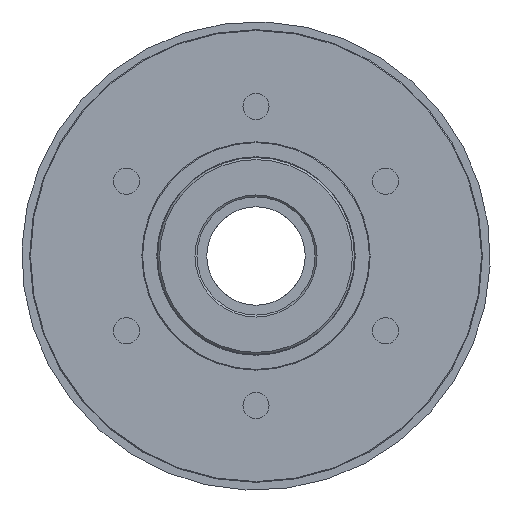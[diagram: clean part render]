
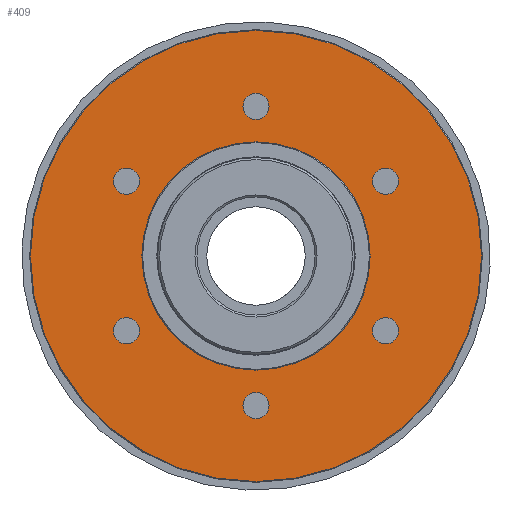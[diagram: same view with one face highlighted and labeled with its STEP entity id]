
A CAD part, left-side view. The second image highlights one B-rep face of the part: STEP entity #409.
In plain terms, the highlighted planar face has unit normal (-1, 0, 0).
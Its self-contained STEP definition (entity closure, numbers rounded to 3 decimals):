
#409 = ADVANCED_FACE( '', ( #833, #834, #835, #836, #837, #838, #839, #840 ), #841, .T. );
#833 = FACE_BOUND( '', #1439, .T. );
#834 = FACE_BOUND( '', #1440, .T. );
#835 = FACE_BOUND( '', #1441, .T. );
#836 = FACE_BOUND( '', #1442, .T. );
#837 = FACE_BOUND( '', #1443, .T. );
#838 = FACE_BOUND( '', #1444, .T. );
#839 = FACE_OUTER_BOUND( '', #1445, .T. );
#840 = FACE_BOUND( '', #1446, .T. );
#841 = PLANE( '', #1447 );
#1439 = EDGE_LOOP( '', ( #2002 ) );
#1440 = EDGE_LOOP( '', ( #2003 ) );
#1441 = EDGE_LOOP( '', ( #2004 ) );
#1442 = EDGE_LOOP( '', ( #2005 ) );
#1443 = EDGE_LOOP( '', ( #2006 ) );
#1444 = EDGE_LOOP( '', ( #2007 ) );
#1445 = EDGE_LOOP( '', ( #2008 ) );
#1446 = EDGE_LOOP( '', ( #2009 ) );
#1447 = AXIS2_PLACEMENT_3D( '', #2010, #2011, #2012 );
#2002 = ORIENTED_EDGE( '', *, *, #2958, .T. );
#2003 = ORIENTED_EDGE( '', *, *, #2959, .T. );
#2004 = ORIENTED_EDGE( '', *, *, #2960, .T. );
#2005 = ORIENTED_EDGE( '', *, *, #2961, .T. );
#2006 = ORIENTED_EDGE( '', *, *, #2962, .T. );
#2007 = ORIENTED_EDGE( '', *, *, #2963, .T. );
#2008 = ORIENTED_EDGE( '', *, *, #2946, .T. );
#2009 = ORIENTED_EDGE( '', *, *, #2964, .F. );
#2010 = CARTESIAN_POINT( '', ( 27.5, 0., 29. ) );
#2011 = DIRECTION( '', ( -1., 0., 0. ) );
#2012 = DIRECTION( '', ( 0., 0., 1. ) );
#2946 = EDGE_CURVE( '', #3298, #3298, #3299, .T. );
#2958 = EDGE_CURVE( '', #3320, #3320, #3321, .T. );
#2959 = EDGE_CURVE( '', #3322, #3322, #3323, .T. );
#2960 = EDGE_CURVE( '', #3324, #3324, #3325, .T. );
#2961 = EDGE_CURVE( '', #3326, #3326, #3327, .T. );
#2962 = EDGE_CURVE( '', #3328, #3328, #3329, .T. );
#2963 = EDGE_CURVE( '', #3330, #3330, #3331, .T. );
#2964 = EDGE_CURVE( '', #3332, #3332, #3333, .T. );
#3298 = VERTEX_POINT( '', #3993 );
#3299 = CIRCLE( '', #3994, 57.3 );
#3320 = VERTEX_POINT( '', #4015 );
#3321 = CIRCLE( '', #4016, 3.324 );
#3322 = VERTEX_POINT( '', #4017 );
#3323 = CIRCLE( '', #4018, 3.324 );
#3324 = VERTEX_POINT( '', #4019 );
#3325 = CIRCLE( '', #4020, 3.324 );
#3326 = VERTEX_POINT( '', #4021 );
#3327 = CIRCLE( '', #4022, 3.324 );
#3328 = VERTEX_POINT( '', #4023 );
#3329 = CIRCLE( '', #4024, 3.324 );
#3330 = VERTEX_POINT( '', #4025 );
#3331 = CIRCLE( '', #4026, 3.324 );
#3332 = VERTEX_POINT( '', #4027 );
#3333 = CIRCLE( '', #4028, 29. );
#3993 = CARTESIAN_POINT( '', ( 27.5, 0., 57.3 ) );
#3994 = AXIS2_PLACEMENT_3D( '', #4773, #4774, #4775 );
#4015 = CARTESIAN_POINT( '', ( 27.5, 35.787, 20.662 ) );
#4016 = AXIS2_PLACEMENT_3D( '', #4803, #4804, #4805 );
#4017 = CARTESIAN_POINT( '', ( 27.5, 35.787, -20.662 ) );
#4018 = AXIS2_PLACEMENT_3D( '', #4806, #4807, #4808 );
#4019 = CARTESIAN_POINT( '', ( 27.5, 0., -41.324 ) );
#4020 = AXIS2_PLACEMENT_3D( '', #4809, #4810, #4811 );
#4021 = CARTESIAN_POINT( '', ( 27.5, -35.787, -20.662 ) );
#4022 = AXIS2_PLACEMENT_3D( '', #4812, #4813, #4814 );
#4023 = CARTESIAN_POINT( '', ( 27.5, -35.787, 20.662 ) );
#4024 = AXIS2_PLACEMENT_3D( '', #4815, #4816, #4817 );
#4025 = CARTESIAN_POINT( '', ( 27.5, 0., 41.324 ) );
#4026 = AXIS2_PLACEMENT_3D( '', #4818, #4819, #4820 );
#4027 = CARTESIAN_POINT( '', ( 27.5, 0., 29. ) );
#4028 = AXIS2_PLACEMENT_3D( '', #4821, #4822, #4823 );
#4773 = CARTESIAN_POINT( '', ( 27.5, 0., 0. ) );
#4774 = DIRECTION( '', ( -1., 0., 0. ) );
#4775 = DIRECTION( '', ( 0., 0., 1. ) );
#4803 = CARTESIAN_POINT( '', ( 27.5, 32.909, 19. ) );
#4804 = DIRECTION( '', ( 1., 0., 0. ) );
#4805 = DIRECTION( '', ( 0., 0.866, 0.5 ) );
#4806 = CARTESIAN_POINT( '', ( 27.5, 32.909, -19. ) );
#4807 = DIRECTION( '', ( 1., 0., 0. ) );
#4808 = DIRECTION( '', ( 0., 0.866, -0.5 ) );
#4809 = CARTESIAN_POINT( '', ( 27.5, 0., -38. ) );
#4810 = DIRECTION( '', ( 1., 0., 0. ) );
#4811 = DIRECTION( '', ( 0., 0., -1. ) );
#4812 = CARTESIAN_POINT( '', ( 27.5, -32.909, -19. ) );
#4813 = DIRECTION( '', ( 1., 0., 0. ) );
#4814 = DIRECTION( '', ( 0., -0.866, -0.5 ) );
#4815 = CARTESIAN_POINT( '', ( 27.5, -32.909, 19. ) );
#4816 = DIRECTION( '', ( 1., 0., 0. ) );
#4817 = DIRECTION( '', ( 0., -0.866, 0.5 ) );
#4818 = CARTESIAN_POINT( '', ( 27.5, 0., 38. ) );
#4819 = DIRECTION( '', ( 1., 0., 0. ) );
#4820 = DIRECTION( '', ( 0., 0., 1. ) );
#4821 = CARTESIAN_POINT( '', ( 27.5, 0., 0. ) );
#4822 = DIRECTION( '', ( -1., 0., 0. ) );
#4823 = DIRECTION( '', ( 0., 0., 1. ) );
